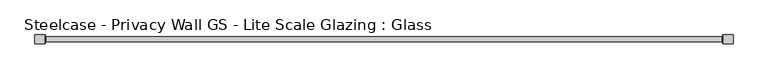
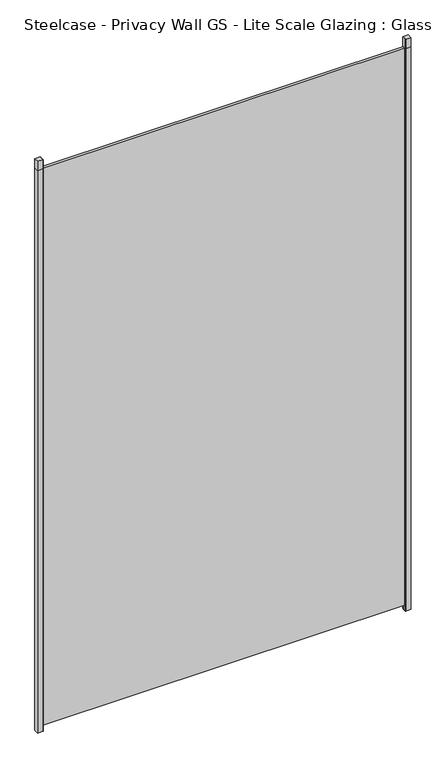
"""IFC4 building model written with IfcOpenShell, lengths in millimetres: plate geometry, Steelcase - Privacy Wall GS - Lite Scale Glazing : Glass."""

from ifc_helpers import new_model, si_unit, frame, origin, origin_with_axes, place, context, project, spatial, polyline, outline, extrude, source, transform, mapped, element, save


def steelcase_privacy_wall_gs_lite_scale_glazing_glass_b0e38d0d(model_context):
    return source(origin(), model_context, "Body", "SweptSolid", [
        extrude(outline(polyline([(915.428729, 11.7474777), (942.4161957, 11.7474777), (942.4161957, -11.7475002), (915.428729, -11.7475002), (915.428729, 11.7474777)])), frame((0.0, 0.0, 2970.784), z_axis=(0.0, 0.0, 1.0), x_axis=(1.0, 0.0, 0.0)), (0.0, 0.0, 1.0), 49.276),
        extrude(outline(polyline([(942.4161957, 11.7474777), (942.4161957, -11.7475002), (915.428729, -11.7475002), (915.428729, -6.3896792), (937.9239708, -6.3896792), (937.9239708, 6.3500051), (915.428729, 6.3500051), (915.428729, 11.7474777), (942.4161957, 11.7474777)])), frame((0.0, 0.0, -27.8638004), z_axis=(0.0, 0.0, 1.0), x_axis=(1.0, 0.0, 0.0)), (0.0, 0.0, 1.0), 2998.6478004),
        extrude(outline(polyline([(915.428729, 11.7474777), (915.428729, -11.7474954), (914.4, -11.7474954), (914.4, 11.7474777), (915.428729, 11.7474777)])), frame((0.0, 0.0, -27.8638004), z_axis=(0.0, 0.0, 1.0), x_axis=(1.0, 0.0, 0.0)), (0.0, 0.0, 1.0), 3047.9238004),
        extrude(outline(polyline([(-915.428729, 11.7474777), (-915.428729, -11.7475002), (-942.4161957, -11.7475002), (-942.4161957, 11.7474777), (-915.428729, 11.7474777)])), frame((0.0, 0.0, 2970.784), z_axis=(0.0, 0.0, 1.0), x_axis=(1.0, 0.0, 0.0)), (0.0, 0.0, 1.0), 49.276),
        extrude(outline(polyline([(-942.4161957, 11.7474777), (-915.428729, 11.7474777), (-915.428729, 6.3500051), (-937.9239708, 6.3500051), (-937.9239708, -6.3896792), (-915.428729, -6.3896792), (-915.428729, -11.7475002), (-942.4161957, -11.7475002), (-942.4161957, 11.7474777)])), frame((0.0, 0.0, -27.8638004), z_axis=(0.0, 0.0, 1.0), x_axis=(1.0, 0.0, 0.0)), (0.0, 0.0, 1.0), 2998.6478004),
        extrude(outline(polyline([(-915.428729, 11.7474777), (-914.4, 11.7474777), (-914.4, -11.7474954), (-915.428729, -11.7474954), (-915.428729, 11.7474777)])), frame((0.0, 0.0, -27.8638004), z_axis=(0.0, 0.0, 1.0), x_axis=(1.0, 0.0, 0.0)), (0.0, 0.0, 1.0), 3047.9238004),
        extrude(outline(polyline([(-912.368, -6.349956), (-912.368, 6.3502015), (912.368, 6.3502015), (912.368, -6.349956), (-912.368, -6.349956)])), origin_with_axes(), (0.0, 0.0, 1.0), 2970.784),
    ])


if __name__ == "__main__":
    model = new_model("IFC4")
    model_context = context("Model", 3, world=origin())
    ifc_project = project(units=[si_unit("LENGTHUNIT", "METRE", prefix="MILLI")], contexts=[model_context])
    site = spatial("IfcSite", under=ifc_project)
    building = spatial("IfcBuilding", under=site)
    placement = place(None, origin())
    steelcase_privacy_wall_gs_lite_scale_glazing_glass_shape = steelcase_privacy_wall_gs_lite_scale_glazing_glass_b0e38d0d(model_context)
    element("IfcPlate", 1, ObjectType="Steelcase - Privacy Wall GS - Lite Scale Glazing : Glass", at=placement, inside=building, context=model_context, shape_type="MappedRepresentation", body=[
        mapped(steelcase_privacy_wall_gs_lite_scale_glazing_glass_shape, transform((0.0, 0.0, 0.0), x_axis=(1.0, 0.0, 0.0), y_axis=(0.0, 1.0, 0.0), z_axis=(0.0, 0.0, 1.0))),
    ])
    save(model, "model.ifc")
